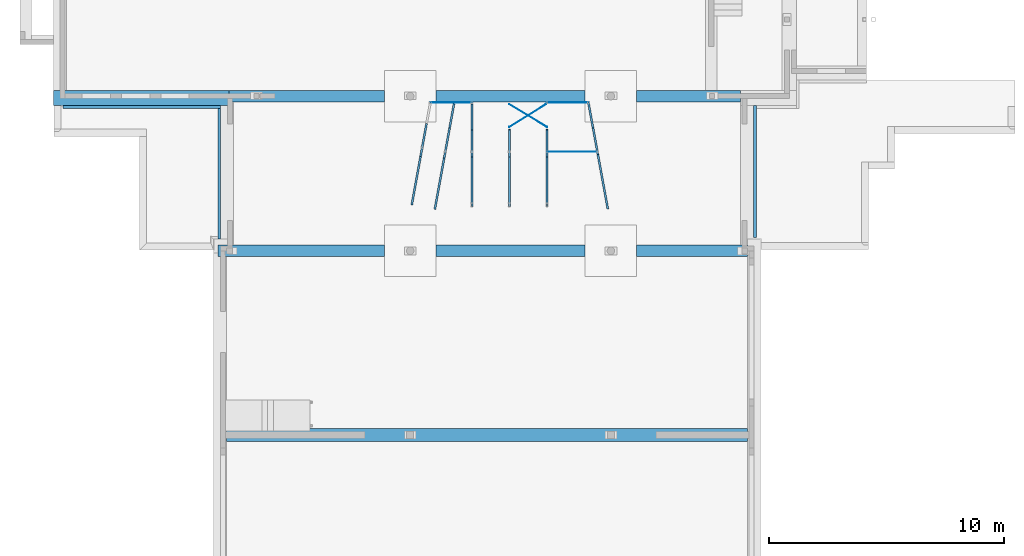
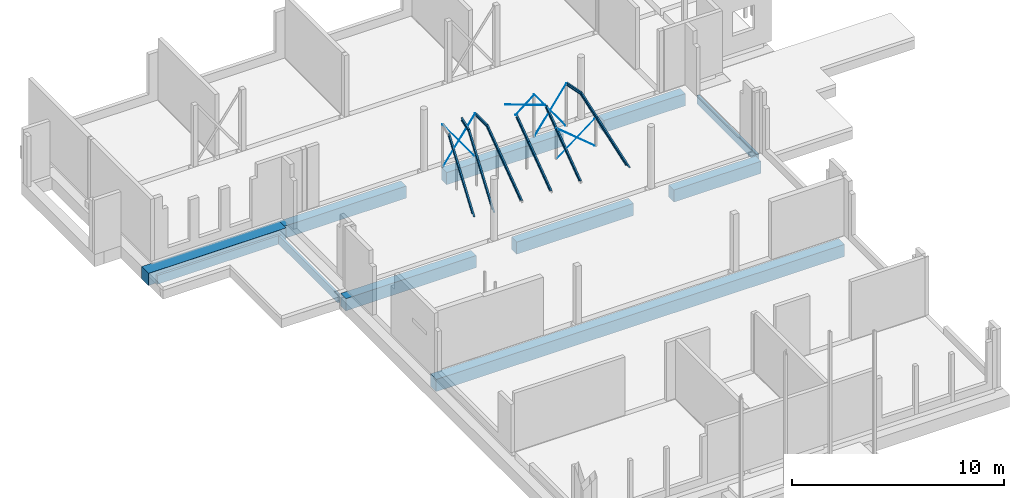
# One storey, part 10 of 17: 30 beams.
"""IFC2X3 building model written with IfcOpenShell, lengths in millimetres."""

from ifc_helpers import new_model, entity, si_unit, converted_unit, derived_unit, direction, frame, frame_2d, origin, origin_2d_with_axis, place, context, subcontext, project, spatial, rectangle, circle, i_section, extrude, clip, halfspace, source, transform, mapped, material, type_object, type_shapes, element, save


model = new_model("IFC2X3")

# Units and contexts
model_context = context("Model", 3, precision=0.01, world=origin(), true_north=direction((6.123031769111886e-17, 1.0)))
body_context = subcontext(model_context, "Body", "Model", "MODEL_VIEW")
ifc_project = project(units=[si_unit("LENGTHUNIT", "METRE", prefix="MILLI"), si_unit("AREAUNIT", "SQUARE_METRE", prefix="MILLI"), si_unit("VOLUMEUNIT", "CUBIC_METRE"), converted_unit("PLANEANGLEUNIT", "DEGREE", entity("IfcPlaneAngleMeasure", 0.017453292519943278), si_unit("PLANEANGLEUNIT", "RADIAN"), dimensions=[0, 0, 0, 0, 0, 0, 0]), si_unit("MASSUNIT", "GRAM", prefix="KILO"), derived_unit("MASSDENSITYUNIT", [(si_unit("MASSUNIT", "GRAM", prefix="KILO"), 1), (si_unit("LENGTHUNIT", "METRE"), -3)]), derived_unit("IONCONCENTRATIONUNIT", [(si_unit("MASSUNIT", "GRAM", prefix="KILO"), 1), (si_unit("LENGTHUNIT", "METRE"), -3)]), derived_unit("MOMENTOFINERTIAUNIT", [(si_unit("LENGTHUNIT", "METRE"), 4)]), si_unit("TIMEUNIT", "SECOND"), si_unit("FREQUENCYUNIT", "HERTZ"), si_unit("THERMODYNAMICTEMPERATUREUNIT", "DEGREE_CELSIUS"), derived_unit("THERMALTRANSMITTANCEUNIT", [(si_unit("MASSUNIT", "GRAM", prefix="KILO"), 1), (si_unit("THERMODYNAMICTEMPERATUREUNIT", "KELVIN"), -1), (si_unit("TIMEUNIT", "SECOND"), -3)]), derived_unit("THERMALCONDUCTANCEUNIT", [(si_unit("MASSUNIT", "GRAM", prefix="KILO"), 1), (si_unit("THERMODYNAMICTEMPERATUREUNIT", "KELVIN"), -1), (si_unit("TIMEUNIT", "SECOND"), -3), (si_unit("LENGTHUNIT", "METRE"), 1)]), derived_unit("VOLUMETRICFLOWRATEUNIT", [(si_unit("LENGTHUNIT", "METRE", prefix="DECI"), 3), (si_unit("TIMEUNIT", "SECOND"), -1)]), derived_unit("MASSFLOWRATEUNIT", [(si_unit("MASSUNIT", "GRAM", prefix="KILO"), 1), (si_unit("TIMEUNIT", "SECOND"), -1)]), derived_unit("ROTATIONALFREQUENCYUNIT", [(si_unit("TIMEUNIT", "SECOND"), -1)]), si_unit("ELECTRICCURRENTUNIT", "AMPERE"), si_unit("ELECTRICVOLTAGEUNIT", "VOLT"), si_unit("POWERUNIT", "WATT"), si_unit("FORCEUNIT", "NEWTON", prefix="KILO"), si_unit("ILLUMINANCEUNIT", "LUX"), si_unit("LUMINOUSFLUXUNIT", "LUMEN"), si_unit("LUMINOUSINTENSITYUNIT", "CANDELA"), si_unit("ENERGYUNIT", "JOULE"), derived_unit("USERDEFINED", [(si_unit("MASSUNIT", "GRAM", prefix="KILO"), -1), (si_unit("LENGTHUNIT", "METRE"), -2), (si_unit("TIMEUNIT", "SECOND"), 3), (si_unit("LUMINOUSFLUXUNIT", "LUMEN"), 1)]), derived_unit("USERDEFINED", [(si_unit("MASSUNIT", "GRAM", prefix="KILO"), 1), (si_unit("TIMEUNIT", "SECOND"), -3), (si_unit("LENGTHUNIT", "METRE"), 3), (si_unit("ELECTRICCURRENTUNIT", "AMPERE"), -2)]), derived_unit("SOUNDPOWERUNIT", [(si_unit("MASSUNIT", "GRAM", prefix="KILO"), 1), (si_unit("TIMEUNIT", "SECOND"), -3), (si_unit("LENGTHUNIT", "METRE"), 2)]), derived_unit("SOUNDPRESSUREUNIT", [(si_unit("MASSUNIT", "GRAM", prefix="KILO"), 1), (si_unit("LENGTHUNIT", "METRE"), -1), (si_unit("TIMEUNIT", "SECOND"), -2)]), derived_unit("LINEARVELOCITYUNIT", [(si_unit("LENGTHUNIT", "METRE"), 1), (si_unit("TIMEUNIT", "SECOND"), -1)]), si_unit("PRESSUREUNIT", "PASCAL"), derived_unit("USERDEFINED", [(si_unit("MASSUNIT", "GRAM", prefix="KILO"), 1), (si_unit("LENGTHUNIT", "METRE"), -2), (si_unit("TIMEUNIT", "SECOND"), -2)]), derived_unit("LINEARFORCEUNIT", [(si_unit("MASSUNIT", "GRAM", prefix="KILO"), 1), (si_unit("TIMEUNIT", "SECOND"), -2)]), derived_unit("PLANARFORCEUNIT", [(si_unit("MASSUNIT", "GRAM", prefix="KILO"), 1), (si_unit("LENGTHUNIT", "METRE"), -1), (si_unit("TIMEUNIT", "SECOND"), -2)]), derived_unit("SPECIFICHEATCAPACITYUNIT", [(si_unit("THERMODYNAMICTEMPERATUREUNIT", "KELVIN"), -1), (si_unit("LENGTHUNIT", "METRE"), 2), (si_unit("TIMEUNIT", "SECOND"), -2)]), derived_unit("HEATFLUXDENSITYUNIT", [(si_unit("MASSUNIT", "GRAM", prefix="KILO"), 1), (si_unit("TIMEUNIT", "SECOND"), -3)]), derived_unit("HEATINGVALUEUNIT", [(si_unit("LENGTHUNIT", "METRE"), 2), (si_unit("TIMEUNIT", "SECOND"), -2)]), derived_unit("VAPORPERMEABILITYUNIT", [(si_unit("LENGTHUNIT", "METRE"), -1), (si_unit("TIMEUNIT", "SECOND"), 1)]), derived_unit("DYNAMICVISCOSITYUNIT", [(si_unit("MASSUNIT", "GRAM", prefix="KILO"), 1), (si_unit("TIMEUNIT", "SECOND"), -1), (si_unit("LENGTHUNIT", "METRE"), -1)]), derived_unit("THERMALEXPANSIONCOEFFICIENTUNIT", [(si_unit("THERMODYNAMICTEMPERATUREUNIT", "KELVIN"), -1)]), derived_unit("MODULUSOFELASTICITYUNIT", [(si_unit("MASSUNIT", "GRAM", prefix="KILO"), 1), (si_unit("LENGTHUNIT", "METRE"), -1), (si_unit("TIMEUNIT", "SECOND"), -2)]), derived_unit("ISOTHERMALMOISTURECAPACITYUNIT", [(si_unit("MASSUNIT", "GRAM", prefix="KILO"), -1), (si_unit("LENGTHUNIT", "METRE"), 3)]), derived_unit("MOISTUREDIFFUSIVITYUNIT", [(si_unit("TIMEUNIT", "SECOND"), -1), (si_unit("LENGTHUNIT", "METRE"), 2)]), derived_unit("MASSPERLENGTHUNIT", [(si_unit("MASSUNIT", "GRAM", prefix="KILO"), 1), (si_unit("LENGTHUNIT", "METRE"), -1)]), derived_unit("THERMALRESISTANCEUNIT", [(si_unit("MASSUNIT", "GRAM", prefix="KILO"), -1), (si_unit("TIMEUNIT", "SECOND"), 3), (si_unit("THERMODYNAMICTEMPERATUREUNIT", "KELVIN"), 1)]), derived_unit("ACCELERATIONUNIT", [(si_unit("LENGTHUNIT", "METRE"), 1), (si_unit("TIMEUNIT", "SECOND"), -2)]), derived_unit("ANGULARVELOCITYUNIT", [(si_unit("TIMEUNIT", "SECOND"), -1), (si_unit("PLANEANGLEUNIT", "RADIAN"), 1)]), derived_unit("LINEARSTIFFNESSUNIT", [(si_unit("MASSUNIT", "GRAM", prefix="KILO"), 1), (si_unit("TIMEUNIT", "SECOND"), -2)]), derived_unit("WARPINGCONSTANTUNIT", [(si_unit("LENGTHUNIT", "METRE"), 6)]), derived_unit("LINEARMOMENTUNIT", [(si_unit("MASSUNIT", "GRAM", prefix="KILO"), 1), (si_unit("LENGTHUNIT", "METRE"), 1), (si_unit("TIMEUNIT", "SECOND"), -2)]), derived_unit("TORQUEUNIT", [(si_unit("MASSUNIT", "GRAM", prefix="KILO"), 1), (si_unit("LENGTHUNIT", "METRE"), 2), (si_unit("TIMEUNIT", "SECOND"), -2)])], contexts=[model_context])

# Site, building, storey
site_placement = place(None, origin())
site = spatial("IfcSite", under=ifc_project, at=site_placement, Name="Default", CompositionType="ELEMENT")
building_placement = place(site_placement, origin())
building = spatial("IfcBuilding", under=site, at=building_placement, CompositionType="ELEMENT")
storey_placement = place(building_placement, frame((0.0, 0.0, -70.0)))
storey = spatial("IfcBuildingStorey", under=building, at=storey_placement, Name="F1 begg (bk ruwe vloer)", CompositionType="ELEMENT", Elevation=-69.99999999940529)

# Beams
ifc_material_1 = material(Name="Concrete - Cast-in-Place - C30/37")
beam_type_1 = type_object("IfcBeamType", Name="btl_ihwg - RBeam:550x700", PredefinedType="NOTDEFINED")
beam_1_placement = place(storey_placement, frame((6718.0007812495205, 17494.60501307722, -410.0)))
element("IfcBeam", 1, at=beam_1_placement, inside=storey, type_object=beam_type_1, material=ifc_material_1, Name="btl_ihwg - RBeam:550x700", ObjectType="btl_ihwg - RBeam:550x700", context=body_context, shape_type="SweptSolid", body=[
    extrude(rectangle(XDim=699.9999999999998, YDim=550.0000000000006, at=frame_2d((-2.842170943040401e-14, 7.256062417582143e-11), x_axis=(1.0, 0.0))), frame((157.00061597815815, 0.0, -350.0), z_axis=(1.0, 0.0, 0.0), x_axis=(0.0, 0.0, -1.0)), (0.0, 0.0, 1.0), 22199.98437287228),
])
beam_type_2 = type_object("IfcBeamType", Name="btl_ihwg - RBeam:650x700", PredefinedType="NOTDEFINED")
beam_2_placement = place(storey_placement, frame((-499.9996127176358, 31537.573165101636, -410.0)))
element("IfcBeam", 2, at=beam_2_placement, inside=storey, type_object=beam_type_2, material=ifc_material_1, Name="btl_ihwg - RBeam:650x700", ObjectType="btl_ihwg - RBeam:650x700", context=body_context, shape_type="SweptSolid", body=[
    extrude(rectangle(XDim=700.0, YDim=650.0000000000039, at=frame_2d((2.842170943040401e-14, 2.3817392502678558e-11), x_axis=(1.0, 0.0))), frame((0.0, 325.0, -350.0), z_axis=(1.0, 0.0, 0.0), x_axis=(0.0, 0.0, -1.0)), (0.0, 0.0, 1.0), 7480.000000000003),
])
ifc_material_2 = material(Name="Beton, ihwg C30/37")
beam_type_3 = type_object("IfcBeamType", Name="btl_ihwg - RBeam:500x700", PredefinedType="BEAM", material=ifc_material_2)
shared_shape_1 = source(origin(), body_context, "Body", "SweptSolid", [
    extrude(rectangle(XDim=700.0, YDim=500.0000000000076, at=frame_2d((2.842170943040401e-14, 2.1657342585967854e-11), x_axis=(1.0, 0.0))), frame((6504.985770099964, 25344.605013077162, -830.0), z_axis=(1.0, 0.0, 0.0), x_axis=(0.0, 0.0, -1.0)), (0.0, 0.0, 1.0), 7094.877338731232),
    extrude(rectangle(XDim=700.0, YDim=500.0000000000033, at=frame_2d((2.842170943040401e-14, 2.3817392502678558e-11), x_axis=(1.0, 0.0))), frame((15799.863108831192, 25344.6050130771, -830.0), z_axis=(1.0, 0.0, 0.0), x_axis=(0.0, 0.0, -1.0)), (0.0, 0.0, 1.0), 6350.123498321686),
    extrude(rectangle(XDim=700.0, YDim=500.0000000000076, at=frame_2d((2.842170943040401e-14, 1.7323031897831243e-11), x_axis=(1.0, 0.0))), frame((24349.986607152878, 25344.605013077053, -830.0), z_axis=(1.0, 0.0, 0.0), x_axis=(0.0, 0.0, -1.0)), (0.0, 0.0, 1.0), 4724.999162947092),
])
type_shapes(beam_type_3, [shared_shape_1])
beam_3_placement = place(storey_placement, frame((0.0, 0.0, 70.0)))
element("IfcBeam", 3, at=beam_3_placement, inside=storey, type_object=beam_type_3, material=ifc_material_2, Name="btl_ihwg - RBeam:500x700", ObjectType="btl_ihwg - RBeam:500x700", context=body_context, shape_type="MappedRepresentation", body=[
    mapped(shared_shape_1, transform((0.0, 0.0, 0.0), scale=1.0)),
])
ifc_material_3 = material(Name="Metal - Steel - S235 JRG2 (standaard)")
beam_type_4 = type_object("IfcBeamType", Name="btl_staal - IPE:IPE160", PredefinedType="NOTDEFINED")
beam_4_placement = place(storey_placement, frame((17324.691481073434, 27115.418980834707, 70.0), z_axis=(0.0, -0.5905610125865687, 0.8069929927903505), x_axis=(0.0, 0.8069929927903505, 0.5905610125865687)))
element("IfcBeam", 4, at=beam_4_placement, inside=storey, type_object=beam_type_4, material=ifc_material_3, Name="btl_staal - IPE:IPE160", ObjectType="btl_staal - IPE:IPE160", context=body_context, shape_type="SweptSolid", body=[
    clip(extrude(i_section(OverallWidth=82.00000000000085, OverallDepth=159.9999999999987, WebThickness=5.0000000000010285, FlangeThickness=7.399999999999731, at=frame_2d((-7.105427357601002e-13, 1.0835776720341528e-12), x_axis=(0.0, 1.0))), frame((137.45946235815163, 0.0, -80.0), z_axis=(1.0, 0.0, 0.0), x_axis=(0.0, 0.0, -1.0)), (0.0, 0.0, 1.0), 2625.896240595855), halfspace(frame((218.63766163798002, -2763.355703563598, -160.0), z_axis=(-0.8917850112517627, 0.0, -0.45245938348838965), x_axis=(0.0, 1.0, 0.0)), False)),
])
beam_5_placement = place(storey_placement, frame((17324.69148107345, 31594.06539256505, 2542.599999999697), z_axis=(0.0, 0.0, 1.0), x_axis=(0.0, -1.0, 0.0)))
element("IfcBeam", 5, at=beam_5_placement, inside=storey, type_object=beam_type_4, material=ifc_material_3, Name="btl_staal - IPE:IPE160", ObjectType="btl_staal - IPE:IPE160", context=body_context, shape_type="SweptSolid", body=[
    extrude(i_section(OverallWidth=82.00000000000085, OverallDepth=159.99999999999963, WebThickness=5.0000000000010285, FlangeThickness=7.400000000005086, at=frame_2d((9.521272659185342e-13, 1.0835776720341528e-12), x_axis=(0.0, 1.0))), frame((0.0, 0.0, -80.0), z_axis=(1.0, 0.0, 0.0), x_axis=(0.0, 0.0, -1.0)), (0.0, 0.0, 1.0), 1099.8746481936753),
])
beam_6_placement = place(storey_placement, frame((18925.64327036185, 27115.418980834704, 70.0), z_axis=(0.0, -0.5905610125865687, 0.8069929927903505), x_axis=(0.0, 0.8069929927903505, 0.5905610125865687)))
element("IfcBeam", 6, at=beam_6_placement, inside=storey, type_object=beam_type_4, material=ifc_material_3, Name="btl_staal - IPE:IPE160", ObjectType="btl_staal - IPE:IPE160", context=body_context, shape_type="SweptSolid", body=[
    clip(extrude(i_section(OverallWidth=82.00000000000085, OverallDepth=160.0000000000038, WebThickness=5.0000000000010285, FlangeThickness=7.4000000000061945, at=frame_2d((6.615152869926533e-12, 1.0835776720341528e-12), x_axis=(0.0, 1.0))), frame((137.45946235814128, 0.0, -80.0), z_axis=(1.0, 0.0, 0.0), x_axis=(0.0, 0.0, -1.0)), (0.0, 0.0, 1.0), 2625.8962405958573), halfspace(frame((218.63766163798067, -2763.3557035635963, -160.0), z_axis=(-0.8917850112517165, 0.0, -0.45245938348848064), x_axis=(0.0, 1.0, 0.0)), False)),
])
beam_7_placement = place(storey_placement, frame((20526.59505965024, 27115.418980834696, 70.0), z_axis=(0.0, -0.5905610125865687, 0.8069929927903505), x_axis=(0.0, 0.8069929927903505, 0.5905610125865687)))
element("IfcBeam", 7, at=beam_7_placement, inside=storey, type_object=beam_type_4, material=ifc_material_3, Name="btl_staal - IPE:IPE160", ObjectType="btl_staal - IPE:IPE160", context=body_context, shape_type="SweptSolid", body=[
    clip(extrude(i_section(OverallWidth=81.99999999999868, OverallDepth=160.00000000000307, WebThickness=4.999999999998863, FlangeThickness=7.4000000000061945, at=frame_2d((3.75877107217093e-12, 0.0), x_axis=(0.0, 1.0))), frame((137.45946235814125, 0.0, -80.0), z_axis=(1.0, 0.0, 0.0), x_axis=(0.0, 0.0, -1.0)), (0.0, 0.0, 1.0), 2625.8962405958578), halfspace(frame((218.63766163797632, -2763.355703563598, -160.0), z_axis=(-0.8917850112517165, 0.0, -0.45245938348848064), x_axis=(0.0, 1.0, 0.0)), False)),
])
beam_8_placement = place(storey_placement, frame((23123.97894847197, 27104.270513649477, 62.046603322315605), z_axis=(0.10310441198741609, -0.5646976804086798, 0.8188321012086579), x_axis=(-0.14707375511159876, 0.8055155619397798, 0.5740330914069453)))
element("IfcBeam", 8, at=beam_8_placement, inside=storey, type_object=beam_type_4, material=ifc_material_3, Name="btl_staal - IPE:IPE160", ObjectType="btl_staal - IPE:IPE160", context=body_context, shape_type="SweptSolid", body=[
    clip(extrude(i_section(OverallWidth=81.99999999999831, OverallDepth=159.99999999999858, WebThickness=5.000000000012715, FlangeThickness=7.400000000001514, at=frame_2d((2.8350655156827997e-12, -2.5224267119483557e-12), x_axis=(0.0, 1.0))), frame((30.443891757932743, 0.0, -80.0), z_axis=(1.0, 0.0, 0.0), x_axis=(0.0, 0.0, -1.0)), (0.0, 0.0, 1.0), 2873.599921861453), halfspace(frame((1.2515108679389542e-07, 2904.0438142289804, 22.119451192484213), z_axis=(-0.5877968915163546, 0.0, -0.8090085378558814), x_axis=(0.0, -1.0, 0.0)), False)),
])
beam_9_placement = place(storey_placement, frame((22298.102320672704, 31627.555279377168, 2542.5999999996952), z_axis=(0.0, 0.0, 1.0), x_axis=(0.17961405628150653, -0.9837371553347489, 0.0)))
element("IfcBeam", 9, at=beam_9_placement, inside=storey, type_object=beam_type_4, material=ifc_material_3, Name="btl_staal - IPE:IPE160", ObjectType="btl_staal - IPE:IPE160", context=body_context, shape_type="SweptSolid", body=[
    clip(extrude(i_section(OverallWidth=82.00000000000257, OverallDepth=159.9999999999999, WebThickness=5.000000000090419, FlangeThickness=7.400000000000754, at=frame_2d((0.0, 4.259703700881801e-12), x_axis=(0.0, 1.0))), frame((0.0, 0.0, -80.0), z_axis=(1.0, 0.0, 0.0), x_axis=(0.0, 0.0, -1.0)), (0.0, 0.0, 1.0), 1059.665720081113), halfspace(frame((1009.1688685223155, 0.0, -160.0), z_axis=(0.9536330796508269, 0.0, -0.30097167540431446), x_axis=(0.016514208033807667, 0.9984935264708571, 0.05232550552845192)), False)),
])
beam_10_placement = place(storey_placement, frame((15740.532737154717, 27069.21432023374, 37.07282810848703), z_axis=(-0.10272086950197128, -0.5648222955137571, 0.8187943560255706), x_axis=(0.14650615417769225, 0.8055806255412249, 0.5740869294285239)))
element("IfcBeam", 10, at=beam_10_placement, inside=storey, type_object=beam_type_4, material=ifc_material_3, Name="btl_staal - IPE:IPE160", ObjectType="btl_staal - IPE:IPE160", context=body_context, shape_type="SweptSolid", body=[
    clip(extrude(i_section(OverallWidth=82.00000000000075, OverallDepth=159.99999999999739, WebThickness=5.000000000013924, FlangeThickness=7.399999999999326, at=frame_2d((1.2789769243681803e-13, 0.0), x_axis=(0.0, 1.0))), frame((57.35572472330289, 0.0, -80.0), z_axis=(1.0, 0.0, 0.0), x_axis=(0.0, 0.0, -1.0)), (0.0, 0.0, 1.0), 2719.5520143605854), halfspace(frame((0.0, 2776.907739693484, 40.214214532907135), z_axis=(-0.5740869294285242, 0.0, -0.8187943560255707), x_axis=(0.0, -1.0, 0.0)), False)),
])
beam_11_placement = place(storey_placement, frame((16566.906424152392, 31613.1233146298, 2542.5999999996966), z_axis=(0.0, 0.0, 1.0), x_axis=(-0.17892912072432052, -0.983861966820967, 0.0)))
element("IfcBeam", 11, at=beam_11_placement, inside=storey, type_object=beam_type_4, material=ifc_material_3, Name="btl_staal - IPE:IPE160", ObjectType="btl_staal - IPE:IPE160", context=body_context, shape_type="SweptSolid", body=[
    clip(extrude(i_section(OverallWidth=82.00000000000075, OverallDepth=159.99999999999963, WebThickness=5.000000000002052, FlangeThickness=7.400000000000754, at=frame_2d((6.821210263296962e-13, -1.0658141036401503e-12), x_axis=(0.0, 1.0))), frame((0.0, 0.0, -80.0), z_axis=(1.0, 0.0, 0.0), x_axis=(0.0, 0.0, -1.0)), (0.0, 0.0, 1.0), 1044.9208900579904), halfspace(frame((994.4182543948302, 0.0, -160.0), z_axis=(0.953623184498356, 0.0, -0.3010030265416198), x_axis=(-0.0164527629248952, 0.9985050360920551, -0.05212484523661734)), False)),
])
beam_12_placement = place(storey_placement, frame((14756.619499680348, 27248.15276524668, 37.07282810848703), z_axis=(-0.10272086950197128, -0.5648222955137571, 0.8187943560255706), x_axis=(0.14650615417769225, 0.8055806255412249, 0.5740869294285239)))
element("IfcBeam", 12, at=beam_12_placement, inside=storey, type_object=beam_type_4, material=ifc_material_3, Name="btl_staal - IPE:IPE160", ObjectType="btl_staal - IPE:IPE160", context=body_context, shape_type="SweptSolid", body=[
    clip(extrude(i_section(OverallWidth=82.00000000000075, OverallDepth=160.0000000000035, WebThickness=4.999999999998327, FlangeThickness=7.400000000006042, at=frame_2d((2.7640112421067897e-12, 3.907985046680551e-13), x_axis=(0.0, 1.0))), frame((57.35572472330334, 0.0, -80.0), z_axis=(1.0, 0.0, 0.0), x_axis=(0.0, 0.0, -1.0)), (0.0, 0.0, 1.0), 2561.4856660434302), halfspace(frame((0.0, 2618.84139137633, 40.214214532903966), z_axis=(-0.5740869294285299, 0.0, -0.8187943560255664), x_axis=(0.0, -1.0, 0.0)), False)),
])
beam_13_placement = place(storey_placement, frame((15140.29588033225, 29357.840651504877, 1540.515441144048), z_axis=(-0.10272086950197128, -0.5648222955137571, 0.8187943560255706), x_axis=(0.14650615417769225, 0.8055806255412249, 0.5740869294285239)))
element("IfcBeam", 13, at=beam_13_placement, inside=storey, type_object=beam_type_4, material=ifc_material_3, Name="btl_staal - IPE:IPE160", ObjectType="btl_staal - IPE:IPE160", context=body_context, shape_type="SweptSolid", body=[
    clip(extrude(i_section(OverallWidth=82.00000000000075, OverallDepth=160.00000000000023, WebThickness=5.000000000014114, FlangeThickness=7.399999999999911, at=frame_2d((-2.2239987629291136e-12, -4.646949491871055e-12), x_axis=(0.0, 1.0))), frame((0.0, 0.0, -80.0), z_axis=(1.0, 0.0, 0.0), x_axis=(0.0, 0.0, -1.0)), (0.0, 0.0, 1.0), 1745.5275629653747), halfspace(frame((1695.0249273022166, 0.0, -160.0), z_axis=(0.9536231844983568, 0.0, -0.3010030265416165), x_axis=(-0.016452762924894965, -0.9985050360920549, -0.05212484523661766)), False)),
])
beam_14_placement = place(storey_placement, frame((16147.366810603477, 29306.237394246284, 1631.2592656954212), z_axis=(-0.10272086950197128, -0.5648222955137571, 0.8187943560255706), x_axis=(0.14650615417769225, 0.8055806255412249, 0.5740869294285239)))
element("IfcBeam", 14, at=beam_14_placement, inside=storey, type_object=beam_type_4, material=ifc_material_3, Name="btl_staal - IPE:IPE160", ObjectType="btl_staal - IPE:IPE160", context=body_context, shape_type="SweptSolid", body=[
    clip(extrude(i_section(OverallWidth=82.00000000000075, OverallDepth=159.99999999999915, WebThickness=5.000000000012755, FlangeThickness=7.399999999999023, at=frame_2d((0.0, 0.0), x_axis=(0.0, 1.0))), frame((0.0, 0.0, -80.0), z_axis=(1.0, 0.0, 0.0), x_axis=(0.0, 0.0, -1.0)), (0.0, 0.0, 1.0), 1587.4612146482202), halfspace(frame((1536.9585789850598, 0.0, -160.0), z_axis=(0.9536231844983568, 0.0, -0.3010030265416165), x_axis=(-0.016452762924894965, -0.9985050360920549, -0.05212484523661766)), False)),
])
beam_15_placement = place(storey_placement, frame((17324.69148107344, 29345.42767019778, 1701.9301424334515), z_axis=(0.0, -0.5905610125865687, 0.8069929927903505), x_axis=(0.0, 0.8069929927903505, 0.5905610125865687)))
element("IfcBeam", 15, at=beam_15_placement, inside=storey, type_object=beam_type_4, material=ifc_material_3, Name="btl_staal - IPE:IPE160", ObjectType="btl_staal - IPE:IPE160", context=body_context, shape_type="SweptSolid", body=[
    clip(extrude(i_section(OverallWidth=82.00000000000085, OverallDepth=159.9999999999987, WebThickness=5.0000000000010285, FlangeThickness=7.399999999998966, at=frame_2d((-9.805489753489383e-13, 1.0835776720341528e-12), x_axis=(0.0, 1.0))), frame((0.0, 0.0, -80.0), z_axis=(1.0, 0.0, 0.0), x_axis=(0.0, 0.0, -1.0)), (0.0, 0.0, 1.0), 1423.5105935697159), halfspace(frame((1371.2194322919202, 0.0, -160.0), z_axis=(0.9505243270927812, 0.0, -0.3106501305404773), x_axis=(0.0, -1.0, 0.0)), False)),
])
beam_16_placement = place(storey_placement, frame((18925.643270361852, 29345.427670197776, 1701.9301424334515), z_axis=(0.0, -0.5905610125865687, 0.8069929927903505), x_axis=(0.0, 0.8069929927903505, 0.5905610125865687)))
element("IfcBeam", 16, at=beam_16_placement, inside=storey, type_object=beam_type_4, material=ifc_material_3, Name="btl_staal - IPE:IPE160", ObjectType="btl_staal - IPE:IPE160", context=body_context, shape_type="SweptSolid", body=[
    clip(extrude(i_section(OverallWidth=82.00000000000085, OverallDepth=159.99999999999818, WebThickness=5.0000000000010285, FlangeThickness=7.399999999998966, at=frame_2d((-3.787192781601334e-12, 1.0835776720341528e-12), x_axis=(0.0, 1.0))), frame((0.0, 0.0, -80.0), z_axis=(1.0, 0.0, 0.0), x_axis=(0.0, 0.0, -1.0)), (0.0, 0.0, 1.0), 1423.510593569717), halfspace(frame((1371.2194322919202, 0.0, -160.0), z_axis=(0.9505243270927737, 0.0, -0.3106501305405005), x_axis=(0.0, -1.0, 0.0)), False)),
])
beam_17_placement = place(storey_placement, frame((20526.59505965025, 29345.42767019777, 1701.9301424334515), z_axis=(0.0, -0.5905610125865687, 0.8069929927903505), x_axis=(0.0, 0.8069929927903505, 0.5905610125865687)))
element("IfcBeam", 17, at=beam_17_placement, inside=storey, type_object=beam_type_4, material=ifc_material_3, Name="btl_staal - IPE:IPE160", ObjectType="btl_staal - IPE:IPE160", context=body_context, shape_type="SweptSolid", body=[
    clip(extrude(i_section(OverallWidth=81.99999999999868, OverallDepth=159.99999999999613, WebThickness=4.999999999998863, FlangeThickness=7.399999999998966, at=frame_2d((3.574029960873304e-12, 0.0), x_axis=(0.0, 1.0))), frame((0.0, 0.0, -80.0), z_axis=(1.0, 0.0, 0.0), x_axis=(0.0, 0.0, -1.0)), (0.0, 0.0, 1.0), 1423.5105935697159), halfspace(frame((1371.2194322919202, 0.0, -160.0), z_axis=(0.9505243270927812, 0.0, -0.3106501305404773), x_axis=(0.0, -1.0, 0.0)), False)),
])
beam_18_placement = place(storey_placement, frame((22696.870319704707, 29443.522998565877, 1729.0638515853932), z_axis=(0.10310441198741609, -0.5646976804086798, 0.8188321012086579), x_axis=(-0.14707375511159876, 0.8055155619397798, 0.5740330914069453)))
element("IfcBeam", 18, at=beam_18_placement, inside=storey, type_object=beam_type_4, material=ifc_material_3, Name="btl_staal - IPE:IPE160", ObjectType="btl_staal - IPE:IPE160", context=body_context, shape_type="SweptSolid", body=[
    clip(extrude(i_section(OverallWidth=82.00000000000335, OverallDepth=160.00000000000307, WebThickness=5.0000000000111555, FlangeThickness=7.4000000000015, at=frame_2d((4.774847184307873e-12, -7.169376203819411e-12), x_axis=(0.0, 1.0))), frame((0.0, 0.0, -80.0), z_axis=(1.0, 0.0, 0.0), x_axis=(0.0, 0.0, -1.0)), (0.0, 0.0, 1.0), 1417.228659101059), halfspace(frame((1366.7318075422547, 0.0, -160.0), z_axis=(0.9536330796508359, 0.0, -0.3009716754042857), x_axis=(0.016514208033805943, -0.998493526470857, 0.052325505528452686)), False)),
])
beam_type_5 = type_object("IfcBeamType", Name="btl_staal - Rond:Ø16", PredefinedType="NOTDEFINED")
beam_19_placement = place(storey_placement, frame((20526.595059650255, 29568.561065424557, 1785.2201399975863), z_axis=(0.6392718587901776, 0.0, 0.7689808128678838), x_axis=(0.7689808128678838, 0.0, -0.6392718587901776)))
element("IfcBeam", 19, at=beam_19_placement, inside=storey, type_object=beam_type_5, material=ifc_material_3, Name="btl_staal - Rond:Ø16", ObjectType="btl_staal - Rond:Ø16", context=body_context, shape_type="SweptSolid", body=[
    extrude(circle(Radius=8.000000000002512, at=frame_2d((-8.244852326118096e-26, -6.24528033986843e-13), x_axis=(1.0, 0.0))), frame((35.088145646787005, 0.0, -8.0), z_axis=(1.0, 0.0, 0.0), x_axis=(0.0, -1.0, 0.0)), (0.0, 0.0, 1.0), 2690.01949072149),
])
beam_20_placement = place(storey_placement, frame((22674.03830390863, 29568.561065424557, 1637.6810632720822), z_axis=(-0.6064025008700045, 0.0, 0.7951578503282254), x_axis=(-0.7951578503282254, 0.0, -0.6064025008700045)))
element("IfcBeam", 20, at=beam_20_placement, inside=storey, type_object=beam_type_5, material=ifc_material_3, Name="btl_staal - Rond:Ø16", ObjectType="btl_staal - Rond:Ø16", context=body_context, shape_type="SweptSolid", body=[
    extrude(circle(Radius=8.000000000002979, at=frame_2d((-9.160947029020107e-27, -2.1526257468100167e-13), x_axis=(1.0, 0.0))), frame((77.87466005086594, 0.0, -8.0), z_axis=(1.0, 0.0, 0.0), x_axis=(0.0, -1.0, 0.0)), (0.0, 0.0, 1.0), 2559.771108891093),
])
beam_21_placement = place(storey_placement, frame((20526.595059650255, 31668.56106542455, 2462.599999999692), z_axis=(0.8129441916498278, 0.0, 0.5823416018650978), x_axis=(0.5823416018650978, 0.0, -0.8129441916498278)))
element("IfcBeam", 21, at=beam_21_placement, inside=storey, type_object=beam_type_5, material=ifc_material_3, Name="btl_staal - Rond:Ø16", ObjectType="btl_staal - Rond:Ø16", context=body_context, shape_type="SweptSolid", body=[
    extrude(circle(Radius=8.000000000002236, at=frame_2d((-3.664378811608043e-26, -3.152992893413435e-13), x_axis=(1.0, 0.0))), frame((0.0, 0.0, -8.0), z_axis=(1.0, 0.0, 0.0), x_axis=(0.0, -1.0, 0.0)), (0.0, 0.0, 1.0), 2947.8480259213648),
])
beam_22_placement = place(storey_placement, frame((22290.645339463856, 31668.56106542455, 2462.599999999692), z_axis=(0.8129441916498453, 0.0, -0.5823416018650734), x_axis=(-0.5823416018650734, 0.0, -0.8129441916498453)))
element("IfcBeam", 22, at=beam_22_placement, inside=storey, type_object=beam_type_5, material=ifc_material_3, Name="btl_staal - Rond:Ø16", ObjectType="btl_staal - Rond:Ø16", context=body_context, shape_type="SweptSolid", body=[
    extrude(circle(Radius=8.000000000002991, at=frame_2d((-8.244852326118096e-26, -4.729489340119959e-13), x_axis=(1.0, 0.0))), frame((0.0, 0.0, 8.0), z_axis=(1.0, 0.0, 0.0), x_axis=(0.0, 1.0, 0.0)), (0.0, 0.0, 1.0), 2947.848025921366),
])
beam_23_placement = place(storey_placement, frame((15560.532850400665, 31668.56106542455, 2462.5999999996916), z_axis=(0.8129272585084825, 0.0, 0.5823652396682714), x_axis=(0.5823652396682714, 0.0, -0.8129272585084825)))
element("IfcBeam", 23, at=beam_23_placement, inside=storey, type_object=beam_type_5, material=ifc_material_3, Name="btl_staal - Rond:Ø16", ObjectType="btl_staal - Rond:Ø16", context=body_context, shape_type="SweptSolid", body=[
    extrude(circle(Radius=8.000000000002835, at=frame_2d((-6.687491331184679e-25, -2.23355254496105e-12), x_axis=(1.0, 0.0))), frame((0.0, 0.0, -8.0), z_axis=(1.0, 0.0, 0.0), x_axis=(0.0, -1.0, 0.0)), (0.0, 0.0, 1.0), 2947.913912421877),
])
beam_24_placement = place(storey_placement, frame((17324.69148107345, 31668.56106542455, 2462.599999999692), z_axis=(0.8129441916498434, 0.0, -0.582341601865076), x_axis=(-0.582341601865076, 0.0, -0.8129441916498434)))
element("IfcBeam", 24, at=beam_24_placement, inside=storey, type_object=beam_type_5, material=ifc_material_3, Name="btl_staal - Rond:Ø16", ObjectType="btl_staal - Rond:Ø16", context=body_context, shape_type="SweptSolid", body=[
    extrude(circle(Radius=8.000000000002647, at=frame_2d((-9.160947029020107e-27, -1.5764964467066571e-13), x_axis=(1.0, 0.0))), frame((0.0, 0.0, 8.0), z_axis=(1.0, 0.0, 0.0), x_axis=(0.0, 1.0, 0.0)), (0.0, 0.0, 1.0), 2948.0340865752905),
])
beam_25_placement = place(storey_placement, frame((18925.64327036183, 30617.78047328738, 2470.5999999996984), z_axis=(0.0, 0.0, 1.0), x_axis=(0.8478441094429, 0.5302455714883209, 0.0)))
element("IfcBeam", 25, at=beam_25_placement, inside=storey, type_object=beam_type_5, material=ifc_material_3, Name="btl_staal - Rond:Ø16", ObjectType="btl_staal - Rond:Ø16", context=body_context, shape_type="SweptSolid", body=[
    extrude(circle(Radius=8.000000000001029, at=origin_2d_with_axis()), frame((0.0, 0.0, -8.0), z_axis=(1.0, 0.0, 0.0), x_axis=(0.0, -1.0, 0.0)), (0.0, 0.0, 1.0), 1841.2391731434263),
])
beam_26_placement = place(storey_placement, frame((20526.595059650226, 30617.70887925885, 2470.5999999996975), z_axis=(0.0, 0.0, 1.0), x_axis=(-0.8544196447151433, 0.5195835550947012, 0.0)))
element("IfcBeam", 26, at=beam_26_placement, inside=storey, type_object=beam_type_5, material=ifc_material_3, Name="btl_staal - Rond:Ø16", ObjectType="btl_staal - Rond:Ø16", context=body_context, shape_type="SweptSolid", body=[
    extrude(circle(Radius=8.00000000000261, at=frame_2d((-5.863006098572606e-25, -2.1657342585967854e-12), x_axis=(1.0, 0.0))), frame((0.0, 0.0, -8.0), z_axis=(1.0, 0.0, 0.0), x_axis=(0.0, -1.0, 0.0)), (0.0, 0.0, 1.0), 1873.730080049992),
])
beam_type_6 = type_object("IfcBeamType", Name="btl_ihwg - RBeam:500x700", PredefinedType="BEAM", material=ifc_material_2)
shared_shape_2 = source(origin(), body_context, "Body", "SweptSolid", [
    extrude(rectangle(XDim=700.0, YDim=500.0000000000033, at=frame_2d((5.684341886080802e-14, 1.5162981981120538e-11), x_axis=(1.0, 0.0))), frame((24349.986607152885, 31937.573165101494, -830.0), z_axis=(1.0, 0.0, 0.0), x_axis=(0.0, 0.0, -1.0)), (0.0, 0.0, 1.0), 4424.995851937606),
    extrude(rectangle(XDim=700.0, YDim=500.0000000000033, at=frame_2d((2.842170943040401e-14, 1.949729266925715e-11), x_axis=(1.0, 0.0))), frame((6980.0003872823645, 31937.573165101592, -830.0), z_axis=(1.0, 0.0, 0.0), x_axis=(0.0, 0.0, -1.0)), (0.0, 0.0, 1.0), 6619.8627215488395),
    extrude(rectangle(XDim=700.0, YDim=500.0000000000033, at=frame_2d((2.842170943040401e-14, 1.949729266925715e-11), x_axis=(1.0, 0.0))), frame((15799.863108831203, 31937.57316510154, -830.0), z_axis=(1.0, 0.0, 0.0), x_axis=(0.0, 0.0, -1.0)), (0.0, 0.0, 1.0), 6350.1234983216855),
])
type_shapes(beam_type_6, [shared_shape_2])
beam_27_placement = place(storey_placement, frame((0.0, 0.0, 70.0)))
element("IfcBeam", 27, at=beam_27_placement, inside=storey, type_object=beam_type_6, material=ifc_material_2, Name="btl_ihwg - RBeam:500x700", ObjectType="btl_ihwg - RBeam:500x700", context=body_context, shape_type="MappedRepresentation", body=[
    mapped(shared_shape_2, transform((0.0, 0.0, 0.0), scale=1.0)),
])
beam_type_7 = type_object("IfcBeamType", Name="btl_ihwg - RBeam:120x500", PredefinedType="NOTDEFINED")
beam_28_placement = place(storey_placement, frame((-94.9974888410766, 31477.573165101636, -610.0)))
element("IfcBeam", 28, at=beam_28_placement, inside=storey, type_object=beam_type_7, material=ifc_material_1, Name="btl_ihwg - RBeam:120x500", ObjectType="btl_ihwg - RBeam:120x500", context=body_context, shape_type="SweptSolid", body=[
    extrude(rectangle(XDim=499.9999999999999, YDim=120.00000000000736, at=frame_2d((-7.105427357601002e-14, 1.7326584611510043e-11), x_axis=(1.0, 0.0))), frame((0.0, 0.0, -250.0), z_axis=(1.0, 0.0, 0.0), x_axis=(0.0, 0.0, -1.0)), (0.0, 0.0, 1.0), 6719.999999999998),
])
beam_29_placement = place(storey_placement, frame((6565.002511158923, 31477.573165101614, -610.0), z_axis=(0.0, 0.0, 1.0), x_axis=(0.0, -1.0, 0.0)))
element("IfcBeam", 29, at=beam_29_placement, inside=storey, type_object=beam_type_7, material=ifc_material_1, Name="btl_ihwg - RBeam:120x500", ObjectType="btl_ihwg - RBeam:120x500", context=body_context, shape_type="SweptSolid", body=[
    extrude(rectangle(XDim=499.9999999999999, YDim=120.00000000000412, at=frame_2d((-7.105427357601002e-14, -1.623590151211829e-12), x_axis=(1.0, 0.0))), frame((60.0, 0.0, -250.0), z_axis=(1.0, 0.0, 0.0), x_axis=(0.0, 0.0, -1.0)), (0.0, 0.0, 1.0), 5572.995591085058),
])
beam_30_placement = place(storey_placement, frame((29384.982459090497, 31477.57316510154, -610.0), z_axis=(0.0, 0.0, 1.0), x_axis=(0.0, -1.0, 0.0)))
element("IfcBeam", 30, at=beam_30_placement, inside=storey, type_object=beam_type_7, material=ifc_material_1, Name="btl_ihwg - RBeam:120x500", ObjectType="btl_ihwg - RBeam:120x500", context=body_context, shape_type="SweptSolid", body=[
    extrude(rectangle(XDim=500.00000000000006, YDim=120.00000000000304, at=frame_2d((-7.105427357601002e-14, -2.1671553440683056e-12), x_axis=(1.0, 0.0))), frame((-60.0, 0.0, -250.0), z_axis=(1.0, 0.0, 0.0), x_axis=(0.0, 0.0, -1.0)), (0.0, 0.0, 1.0), 5632.9955910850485),
])

save(model, "model.ifc")
